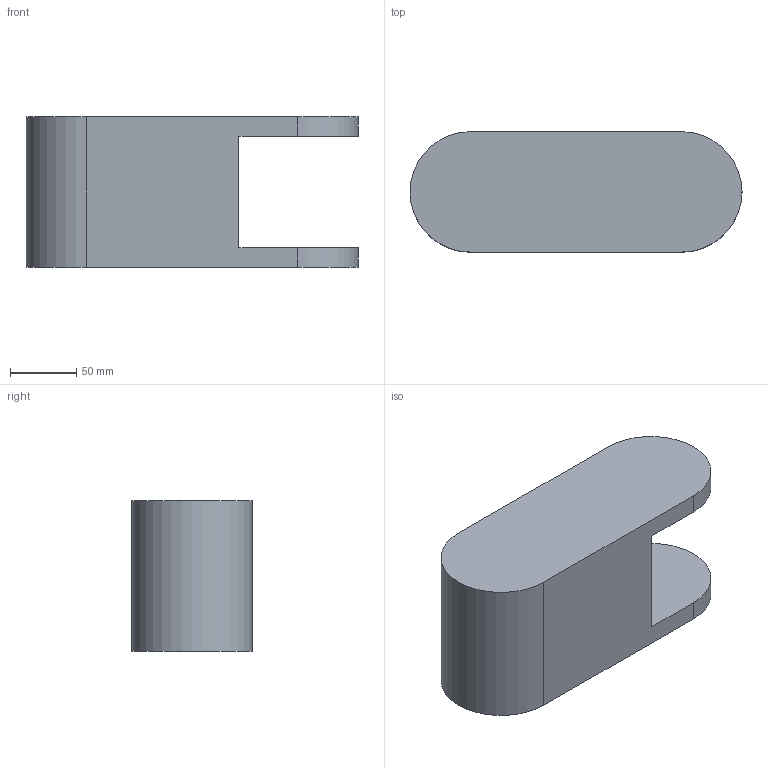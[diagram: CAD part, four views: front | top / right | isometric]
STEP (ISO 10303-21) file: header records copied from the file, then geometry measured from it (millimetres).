
FILE_DESCRIPTION (( 'STEP AP203' ), '1' );
FILE_NAME ('Eslabon3_Default_sldprt.STEP', '2022-03-13T17:40:41', ( '' ), ( '' ), 'SwSTEP 2.0', 'SolidWorks 2020', '' );
FILE_SCHEMA (( 'CONFIG_CONTROL_DESIGN' ));
Length unit declared in the file: millimetre
Products named in the file (1): Eslabon3_Default_sldprt
Bounding box: 251 x 91 x 114 mm (x, y, z)
Volume: 1787961.5 mm3; surface area: 113962.4 mm2
Topology: 1 solids, 1 shells, 12 faces, 30 edges, 20 vertices
Faces by surface type: plane 7, cylinder 5
Entity records: 441 total; most frequent: DIRECTION 66, CARTESIAN_POINT 63, ORIENTED_EDGE 60, EDGE_CURVE 30, AXIS2_PLACEMENT_3D 23, VECTOR 20, LINE 20, VERTEX_POINT 20
